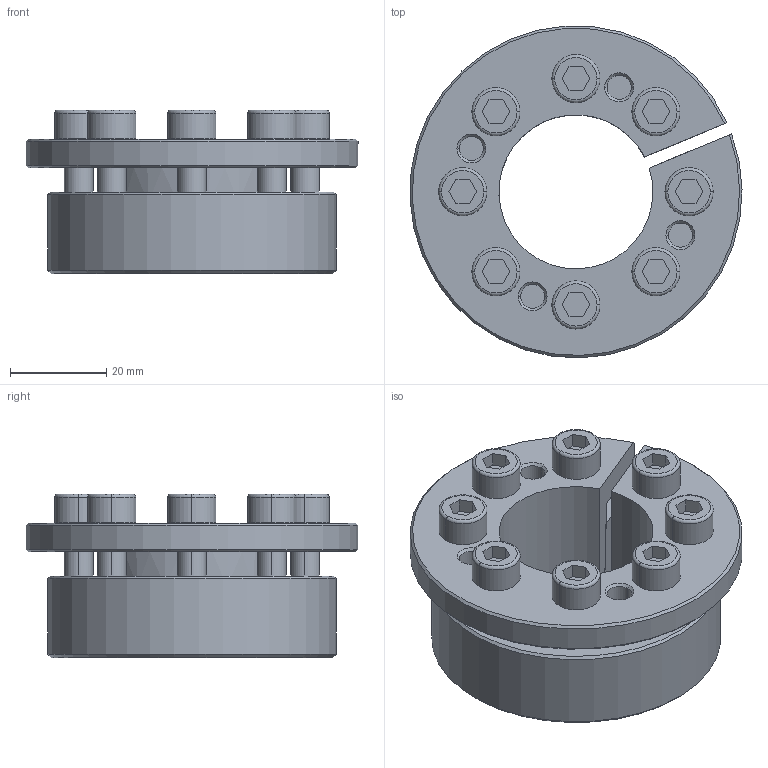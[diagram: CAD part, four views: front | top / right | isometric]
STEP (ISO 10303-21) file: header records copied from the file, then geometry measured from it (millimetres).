
FILE_DESCRIPTION((''),'2;1');
FILE_NAME('398-011-0032','2024-02-18T',('Brieden'),('Brieden'),'PRO/ENGINEER BY PARAMETRIC TECHNOLOGY CORPORATION, 2010160','PRO/ENGINEER BY PARAMETRIC TECHNOLOGY CORPORATION, 2010160','');
FILE_SCHEMA(('AUTOMOTIVE_DESIGN { 1 0 10303 214 1 1 1 1 }'));
Length unit declared in the file: millimetre
Products named in the file (1): 398-011-0032
Bounding box: 68.96 x 68.91 x 34 mm (x, y, z)
Volume: 55841 mm3; surface area: 26408.5 mm2
Topology: 2 solids, 2 shells, 218 faces, 498 edges, 316 vertices
Faces by surface type: plane 89, cylinder 75, cone 38, torus 16
Entity records: 7982 total; most frequent: DIRECTION 1146, CARTESIAN_POINT 1092, ORIENTED_EDGE 996, PRESENTATION_STYLE_ASSIGNMENT 517, STYLED_ITEM 500, CURVE_STYLE 498, EDGE_CURVE 498, AXIS2_PLACEMENT_3D 441
